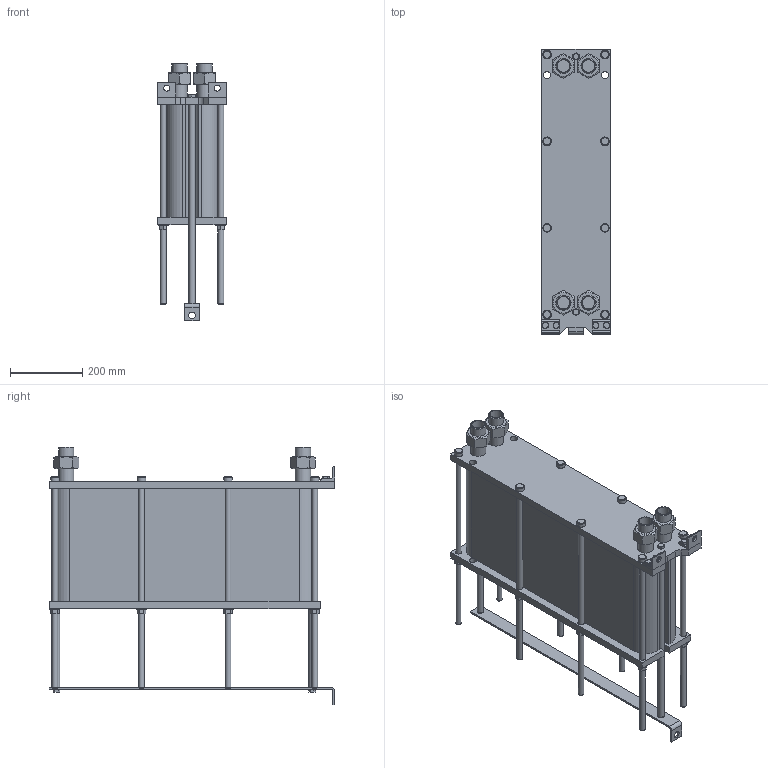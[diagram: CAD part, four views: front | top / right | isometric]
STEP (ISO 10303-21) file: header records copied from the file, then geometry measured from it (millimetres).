
FILE_DESCRIPTION(/* description */ (''),/* implementation_level */ '2;1');
FILE_NAME(/* name */ 'C:\Users\zhuro\Desktop\ENCO\TO\ЭН-008\ЭН-0,5-008-101-1.stp',/* time_stamp */ '2022-06-06T10:54:55+03:00',/* author */ ('zhuro'),/* organization */ (''),/* preprocessor_version */ 'ST-DEVELOPER v18.1',/* originating_system */ 'Autodesk Inventor 2022',/* authorisation */ '');
FILE_SCHEMA (('AUTOMOTIVE_DESIGN { 1 0 10303 214 3 1 1 }'));
Length unit declared in the file: millimetre
Products named in the file (1): ЭН-0,5-008-101-1
Bounding box: 190 x 790 x 713.8 mm (x, y, z)
Volume: 38891351.7 mm3; surface area: 2029983.6 mm2
Topology: 40 solids, 40 shells, 428 faces, 924 edges, 606 vertices
Faces by surface type: plane 273, cylinder 109, cone 40, torus 6
Full cylindrical faces by diameter (mm): 12 x6, 14 x2, 16 x20, 17 x8, 18 x19, 20 x5, 24 x8, 28 x8, 34.3 x8, 42.3 x8
Entity records: 15843 total; most frequent: CARTESIAN_POINT 5991, DIRECTION 1984, ORIENTED_EDGE 1848, EDGE_CURVE 924, AXIS2_PLACEMENT_3D 715, VERTEX_POINT 606, LINE 554, VECTOR 554
